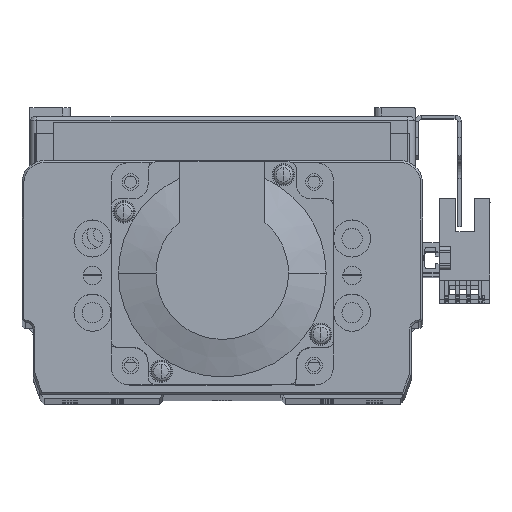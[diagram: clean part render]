
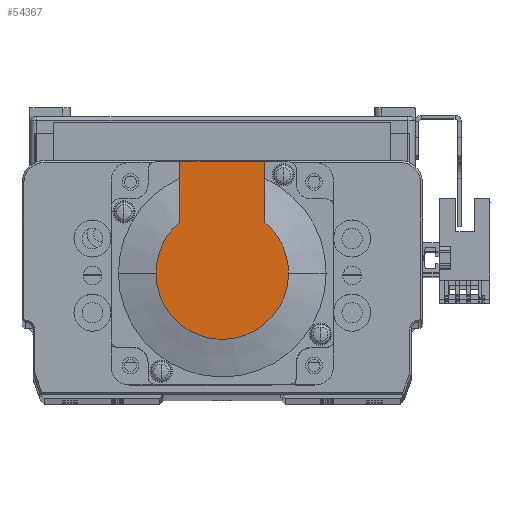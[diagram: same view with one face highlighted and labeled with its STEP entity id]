
A CAD part, top view. The second image highlights one B-rep face of the part: STEP entity #54367.
In plain terms, the highlighted planar face has unit normal (0, 0, 1) as drawn and (-1, 0, 0) by its records, which use the part's own axes.
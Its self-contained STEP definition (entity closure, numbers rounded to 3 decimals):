
#566 = VERTEX_POINT ( 'NONE', #3762 ) ;
#578 = VERTEX_POINT ( 'NONE', #3791 ) ;
#582 = VERTEX_POINT ( 'NONE', #3783 ) ;
#741 = VERTEX_POINT ( 'NONE', #3925 ) ;
#774 = VERTEX_POINT ( 'NONE', #3968 ) ;
#789 = VERTEX_POINT ( 'NONE', #3990 ) ;
#3031 = AXIS2_PLACEMENT_3D ( 'NONE', #52193, #52244, #52253 ) ;
#3762 = CARTESIAN_POINT ( 'NONE',  ( -99., 13.735, 11.45 ) ) ;
#3783 = CARTESIAN_POINT ( 'NONE',  ( -99., 0., 17.881 ) ) ;
#3791 = CARTESIAN_POINT ( 'NONE',  ( -99., 0., -17.881 ) ) ;
#3925 = CARTESIAN_POINT ( 'NONE',  ( -99., 30., 11.45 ) ) ;
#3968 = CARTESIAN_POINT ( 'NONE',  ( -99., 30., -11.45 ) ) ;
#3990 = CARTESIAN_POINT ( 'NONE',  ( -99., 13.735, -11.45 ) ) ;
#8596 = CARTESIAN_POINT ( 'NONE',  ( -99., -8.941, -11.45 ) ) ;
#8611 = DIRECTION ( 'NONE',  ( 0., -1., 0. ) ) ;
#8817 = DIRECTION ( 'NONE',  ( 0., 0., 1. ) ) ;
#8837 = CARTESIAN_POINT ( 'NONE',  ( -99., 30., 25. ) ) ;
#8858 = DIRECTION ( 'NONE',  ( 0., -1., 0. ) ) ;
#8882 = CARTESIAN_POINT ( 'NONE',  ( -99., 0., 11.45 ) ) ;
#10299 = LINE ( 'NONE', #8596, #10354 ) ;
#10354 = VECTOR ( 'NONE', #8611, 1000. ) ;
#10488 = LINE ( 'NONE', #8882, #10521 ) ;
#10498 = VECTOR ( 'NONE', #8817, 1000. ) ;
#10521 = VECTOR ( 'NONE', #8858, 1000. ) ;
#10529 = LINE ( 'NONE', #8837, #10498 ) ;
#13466 = CIRCLE ( 'NONE', #39765, 17.881 ) ;
#13542 = CIRCLE ( 'NONE', #39742, 17.881 ) ;
#14283 = CIRCLE ( 'NONE', #39822, 17.881 ) ;
#15634 = EDGE_LOOP ( 'NONE', ( #29946, #29884, #29885, #29923, #29824, #29873 ) ) ;
#27686 = CARTESIAN_POINT ( 'NONE',  ( -99., 0., 0. ) ) ;
#27687 = DIRECTION ( 'NONE',  ( -1., 0., 0. ) ) ;
#27688 = DIRECTION ( 'NONE',  ( 0., 0., -1. ) ) ;
#29824 = ORIENTED_EDGE ( 'NONE', *, *, #36669, .F. ) ;
#29873 = ORIENTED_EDGE ( 'NONE', *, *, #36664, .F. ) ;
#29884 = ORIENTED_EDGE ( 'NONE', *, *, #43181, .T. ) ;
#29885 = ORIENTED_EDGE ( 'NONE', *, *, #42859, .T. ) ;
#29923 = ORIENTED_EDGE ( 'NONE', *, *, #42884, .T. ) ;
#29946 = ORIENTED_EDGE ( 'NONE', *, *, #36560, .T. ) ;
#35265 = FACE_OUTER_BOUND ( 'NONE', #15634, .T. ) ;
#36560 = EDGE_CURVE ( 'NONE', #774, #789, #10299, .T. ) ;
#36664 = EDGE_CURVE ( 'NONE', #774, #741, #10529, .T. ) ;
#36669 = EDGE_CURVE ( 'NONE', #741, #566, #10488, .T. ) ;
#39742 = AXIS2_PLACEMENT_3D ( 'NONE', #53558, #53484, #53513 ) ;
#39765 = AXIS2_PLACEMENT_3D ( 'NONE', #53445, #53463, #53454 ) ;
#39822 = AXIS2_PLACEMENT_3D ( 'NONE', #27686, #27687, #27688 ) ;
#42859 = EDGE_CURVE ( 'NONE', #578, #582, #13466, .T. ) ;
#42884 = EDGE_CURVE ( 'NONE', #582, #566, #13542, .T. ) ;
#43181 = EDGE_CURVE ( 'NONE', #789, #578, #14283, .T. ) ;
#52193 = CARTESIAN_POINT ( 'NONE',  ( -99., -8.941, 0. ) ) ;
#52240 = PLANE ( 'NONE',  #3031 ) ;
#52244 = DIRECTION ( 'NONE',  ( -1., 0., 0. ) ) ;
#52253 = DIRECTION ( 'NONE',  ( 0., 0., 1. ) ) ;
#53445 = CARTESIAN_POINT ( 'NONE',  ( -99., 0., 0. ) ) ;
#53454 = DIRECTION ( 'NONE',  ( 0., 0., -1. ) ) ;
#53463 = DIRECTION ( 'NONE',  ( -1., 0., 0. ) ) ;
#53484 = DIRECTION ( 'NONE',  ( -1., 0., 0. ) ) ;
#53513 = DIRECTION ( 'NONE',  ( 0., 0., -1. ) ) ;
#53558 = CARTESIAN_POINT ( 'NONE',  ( -99., 0., 0. ) ) ;
#54367 = ADVANCED_FACE ( 'NONE', ( #35265 ), #52240, .T. ) ;
